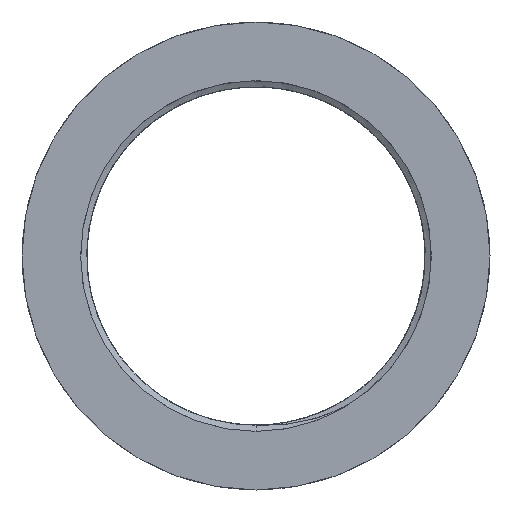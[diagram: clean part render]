
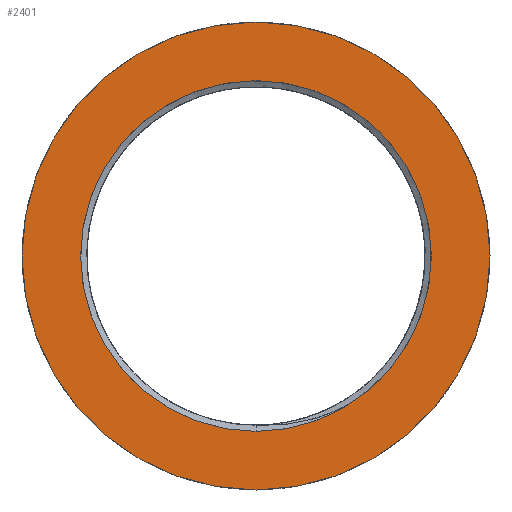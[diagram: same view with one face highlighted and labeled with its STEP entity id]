
A CAD part, front view. The second image highlights one B-rep face of the part: STEP entity #2401.
In plain terms, the highlighted planar face has unit normal (0, -1, 0).
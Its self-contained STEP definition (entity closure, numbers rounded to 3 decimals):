
#171 = CARTESIAN_POINT ( 'NONE',  ( 0., 0., 30.25 ) ) ;
#207 = ORIENTED_EDGE ( 'NONE', *, *, #403, .T. ) ;
#403 = EDGE_CURVE ( 'NONE', #2141, #2141, #2812, .T. ) ;
#521 = PLANE ( 'NONE',  #3016 ) ;
#549 = CARTESIAN_POINT ( 'NONE',  ( 0., 0., 0. ) ) ;
#809 = DIRECTION ( 'NONE',  ( 0., 1., 0. ) ) ;
#827 = DIRECTION ( 'NONE',  ( 0., 0., 1. ) ) ;
#939 = AXIS2_PLACEMENT_3D ( 'NONE', #3625, #1930, #2564 ) ;
#1488 = AXIS2_PLACEMENT_3D ( 'NONE', #549, #1893, #1604 ) ;
#1513 = FACE_BOUND ( 'NONE', #1796, .T. ) ;
#1604 = DIRECTION ( 'NONE',  ( 0., 0., 1. ) ) ;
#1796 = EDGE_LOOP ( 'NONE', ( #207 ) ) ;
#1893 = DIRECTION ( 'NONE',  ( 0., 1., 0. ) ) ;
#1930 = DIRECTION ( 'NONE',  ( 0., 1., 0. ) ) ;
#2045 = ORIENTED_EDGE ( 'NONE', *, *, #3595, .F. ) ;
#2141 = VERTEX_POINT ( 'NONE', #3428 ) ;
#2150 = FACE_OUTER_BOUND ( 'NONE', #2269, .T. ) ;
#2269 = EDGE_LOOP ( 'NONE', ( #2045 ) ) ;
#2401 = ADVANCED_FACE ( 'NONE', ( #2150, #1513 ), #521, .F. ) ;
#2564 = DIRECTION ( 'NONE',  ( 0., 0., 1. ) ) ;
#2812 = CIRCLE ( 'NONE', #939, 22.675 ) ;
#3016 = AXIS2_PLACEMENT_3D ( 'NONE', #4181, #809, #827 ) ;
#3180 = VERTEX_POINT ( 'NONE', #171 ) ;
#3215 = CIRCLE ( 'NONE', #1488, 30.25 ) ;
#3428 = CARTESIAN_POINT ( 'NONE',  ( 0., 0., 22.675 ) ) ;
#3595 = EDGE_CURVE ( 'NONE', #3180, #3180, #3215, .T. ) ;
#3625 = CARTESIAN_POINT ( 'NONE',  ( 0., 0., 0. ) ) ;
#4181 = CARTESIAN_POINT ( 'NONE',  ( 0., 0., 0. ) ) ;
